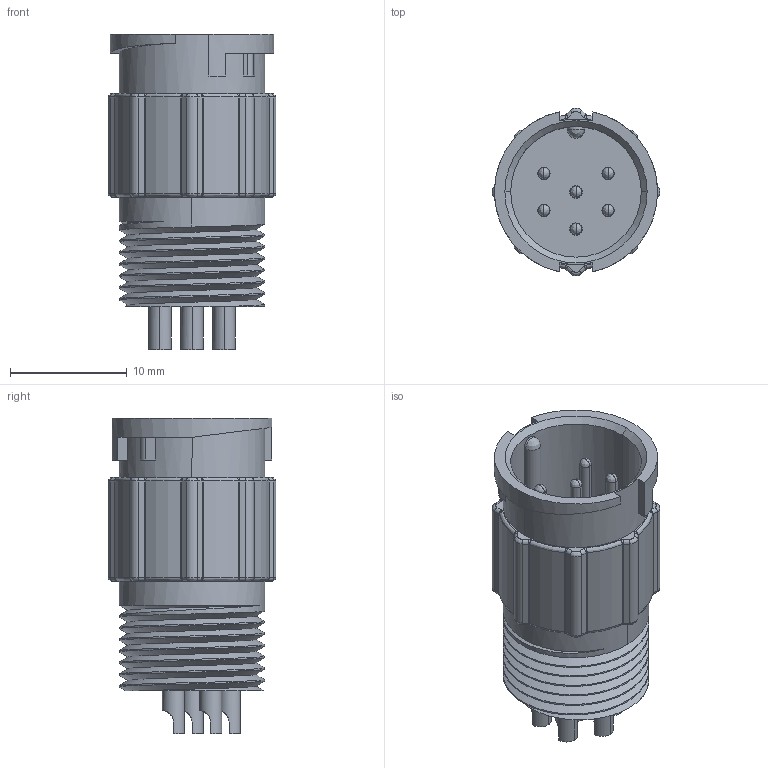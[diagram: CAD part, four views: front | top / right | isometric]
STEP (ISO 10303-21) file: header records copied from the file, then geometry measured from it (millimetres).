
FILE_DESCRIPTION (( 'STEP AP203' ), '1' );
FILE_NAME ('868-006-103R001.STEP', '2025-12-17T18:27:25', ( '' ), ( '' ), 'SwSTEP 2.0', 'SolidWorks 2020', '' );
FILE_SCHEMA (( 'CONFIG_CONTROL_DESIGN' ));
Length unit declared in the file: millimetre
Products named in the file (1): 868-006-103R001
Bounding box: 14.39 x 14.39 x 27.1 mm (x, y, z)
Volume: 2017.5 mm3; surface area: 2778.6 mm2
Topology: 1 solids, 1 shells, 370 faces, 894 edges, 523 vertices
Faces by surface type: cylinder 168, bspline 87, plane 64, cone 51
Entity records: 16794 total; most frequent: CARTESIAN_POINT 8721, ORIENTED_EDGE 1738, DIRECTION 1602, EDGE_CURVE 869, AXIS2_PLACEMENT_3D 626, VERTEX_POINT 523, EDGE_LOOP 392, ADVANCED_FACE 370
